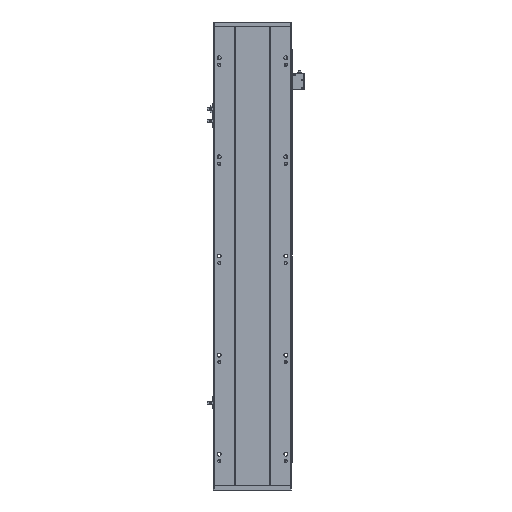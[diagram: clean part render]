
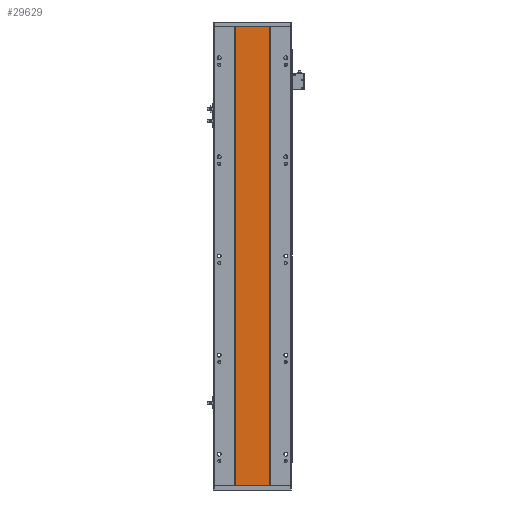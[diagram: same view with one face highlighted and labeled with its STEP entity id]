
A CAD part, front view. The second image highlights one B-rep face of the part: STEP entity #29629.
In plain terms, the highlighted planar face has unit normal (0, -1, 0).
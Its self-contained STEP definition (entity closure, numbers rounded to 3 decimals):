
#716 = LINE ( 'NONE', #17899, #8183 ) ;
#1681 = CARTESIAN_POINT ( 'NONE',  ( 205.288, 16.9, 0. ) ) ;
#2633 = EDGE_CURVE ( 'NONE', #23304, #10524, #716, .T. ) ;
#8183 = VECTOR ( 'NONE', #27342, 1000. ) ;
#8719 = VERTEX_POINT ( 'NONE', #11170 ) ;
#10524 = VERTEX_POINT ( 'NONE', #1681 ) ;
#10819 = DIRECTION ( 'NONE',  ( -1., 0., 0. ) ) ;
#10977 = ORIENTED_EDGE ( 'NONE', *, *, #13055, .F. ) ;
#11170 = CARTESIAN_POINT ( 'NONE',  ( 129.288, 16.9, 1000. ) ) ;
#11841 = DIRECTION ( 'NONE',  ( 0., 0., -1. ) ) ;
#11938 = DIRECTION ( 'NONE',  ( 0., 0., -1. ) ) ;
#12035 = CARTESIAN_POINT ( 'NONE',  ( 205.288, 16.9, 1000. ) ) ;
#12039 = CARTESIAN_POINT ( 'NONE',  ( 129.288, 16.9, 1000. ) ) ;
#12269 = CARTESIAN_POINT ( 'NONE',  ( 205.288, 16.9, 1000. ) ) ;
#13055 = EDGE_CURVE ( 'NONE', #29425, #10524, #23135, .T. ) ;
#13450 = LINE ( 'NONE', #25445, #22345 ) ;
#13679 = EDGE_CURVE ( 'NONE', #8719, #29425, #13450, .T. ) ;
#15070 = VECTOR ( 'NONE', #11841, 1000. ) ;
#17204 = VECTOR ( 'NONE', #11938, 1000. ) ;
#17650 = PLANE ( 'NONE',  #23461 ) ;
#17899 = CARTESIAN_POINT ( 'NONE',  ( 205.288, 16.9, 0. ) ) ;
#19870 = LINE ( 'NONE', #12039, #15070 ) ;
#22321 = DIRECTION ( 'NONE',  ( 0., 1., 0. ) ) ;
#22335 = CARTESIAN_POINT ( 'NONE',  ( 129.288, 16.9, 0. ) ) ;
#22345 = VECTOR ( 'NONE', #25545, 1000. ) ;
#23135 = LINE ( 'NONE', #12035, #17204 ) ;
#23304 = VERTEX_POINT ( 'NONE', #22335 ) ;
#23461 = AXIS2_PLACEMENT_3D ( 'NONE', #27402, #22321, #10819 ) ;
#24071 = EDGE_CURVE ( 'NONE', #8719, #23304, #19870, .T. ) ;
#25168 = ORIENTED_EDGE ( 'NONE', *, *, #2633, .T. ) ;
#25445 = CARTESIAN_POINT ( 'NONE',  ( 129.288, 16.9, 1000. ) ) ;
#25545 = DIRECTION ( 'NONE',  ( 1., 0., 0. ) ) ;
#26196 = FACE_OUTER_BOUND ( 'NONE', #27324, .T. ) ;
#27324 = EDGE_LOOP ( 'NONE', ( #25168, #10977, #28907, #28032 ) ) ;
#27342 = DIRECTION ( 'NONE',  ( 1., 0., 0. ) ) ;
#27402 = CARTESIAN_POINT ( 'NONE',  ( 205.288, 16.9, 1000. ) ) ;
#28032 = ORIENTED_EDGE ( 'NONE', *, *, #24071, .T. ) ;
#28907 = ORIENTED_EDGE ( 'NONE', *, *, #13679, .F. ) ;
#29425 = VERTEX_POINT ( 'NONE', #12269 ) ;
#29629 = ADVANCED_FACE ( 'NONE', ( #26196 ), #17650, .F. ) ;
